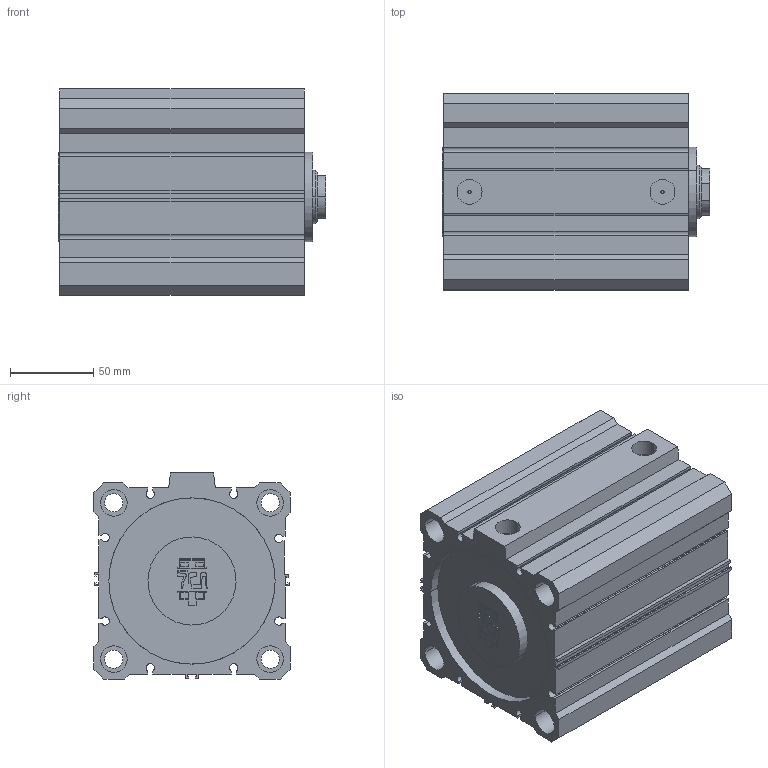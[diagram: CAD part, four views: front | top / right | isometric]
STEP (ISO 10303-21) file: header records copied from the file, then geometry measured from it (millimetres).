
FILE_DESCRIPTION(('CATIA V5 STEP Exchange'),'2;1');
FILE_NAME('D:\PDA\PDA-STP\PDA 100-32\PDA 100-32-90.stp','2016-02-02T11:08:51+00:00',('none'),('none'),'Version 5-6 Release 2012','CATIA V5 STEP AP203','none');
FILE_SCHEMA(('CONFIG_CONTROL_DESIGN'));
Length unit declared in the file: millimetre
Products named in the file (1): PDA 100-32-90-00
Assembly tree (2 placements, depth 2):
  PDA 100-32-90-00
    #58
    #7695
Bounding box: 161 x 118 x 124 mm (x, y, z)
Volume: 1082793.9 mm3; surface area: 232515.6 mm2
Topology: 2 solids, 2 shells, 284 faces, 744 edges, 498 vertices
Faces by surface type: plane 202, cylinder 80, cone 2
Entity records: 8167 total; most frequent: ORIENTED_EDGE 1488, CARTESIAN_POINT 1432, DIRECTION 1124, EDGE_CURVE 744, VECTOR 574, LINE 574, VERTEX_POINT 498, AXIS2_PLACEMENT_3D 360
